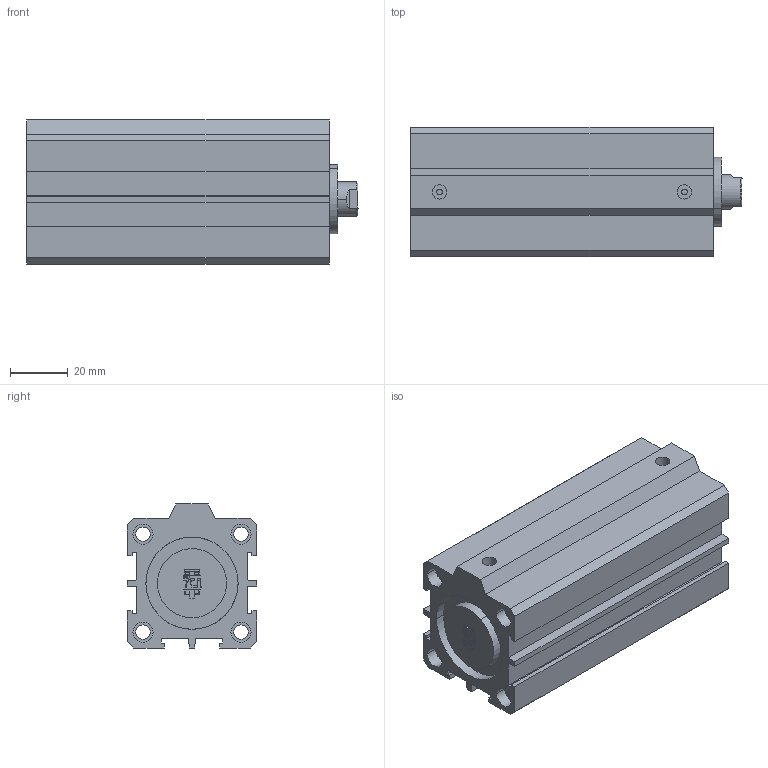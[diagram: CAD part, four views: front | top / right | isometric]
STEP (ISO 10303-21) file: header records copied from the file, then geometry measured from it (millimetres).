
FILE_DESCRIPTION(('CATIA V5 STEP Exchange'),'2;1');
FILE_NAME('D:\PDA\PDA-STP\PDA 32-12\PDA 32-12-70.stp','2016-02-02T10:42:28+00:00',('none'),('none'),'Version 5-6 Release 2012','CATIA V5 STEP AP203','none');
FILE_SCHEMA(('CONFIG_CONTROL_DESIGN'));
Length unit declared in the file: millimetre
Products named in the file (1): PDA 32-12-70-00
Assembly tree (2 placements, depth 2):
  PDA 32-12-70-00
    #58
    #6193
Bounding box: 115.25 x 45 x 50 mm (x, y, z)
Volume: 133591.1 mm3; surface area: 53187.3 mm2
Topology: 2 solids, 2 shells, 233 faces, 602 edges, 404 vertices
Faces by surface type: plane 163, cylinder 68, cone 2
Entity records: 6699 total; most frequent: CARTESIAN_POINT 1225, ORIENTED_EDGE 1204, DIRECTION 900, EDGE_CURVE 602, VECTOR 444, LINE 444, VERTEX_POINT 404, AXIS2_PLACEMENT_3D 301
